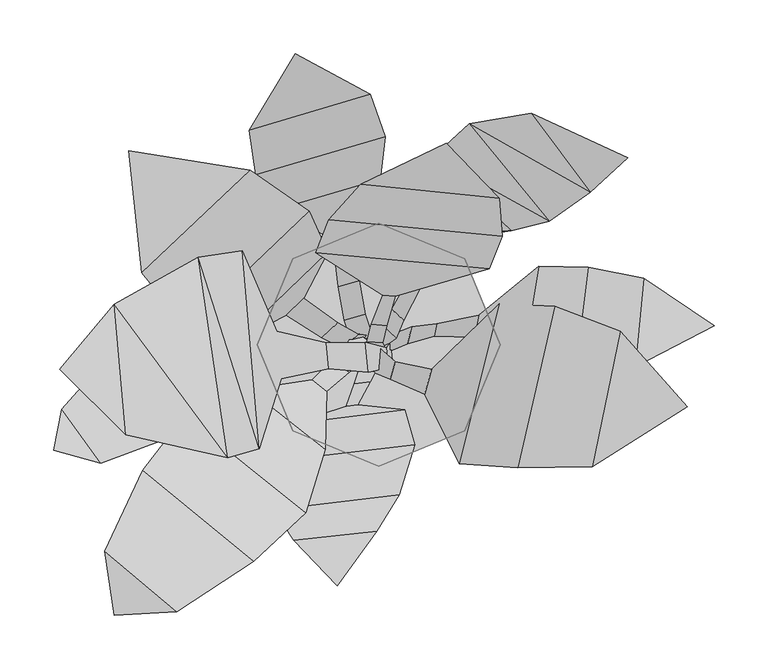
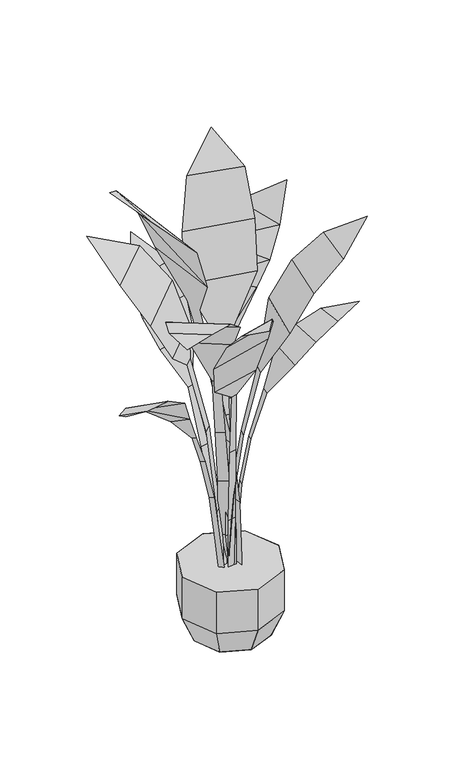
"""IFC4 building model written with IfcOpenShell, lengths in millimetres: geographic element geometry, Enscape AssetDefinition - Potted Plant 119 Strelitzia Nicolai : Enscape AssetDefinition - Potted Plant 119 Strelitzia Nicolai 3."""

from ifc_helpers import new_model, si_unit, origin, place, context, project, spatial, triangles, source, transform, mapped, element, save


def geographic_element_7c057f5b(model_context):
    return source(origin(), model_context, "Body", "Tessellation", [
        triangles([(-28.6275608, -3.2315073, 148.0808414), (-302.7117372, -98.2944635, 692.0313057), (-4.3611286, 8.3419219, 150.3474363), (-232.6906115, 180.4420928, 945.6564497), (-12.669571, -5.6641772, 152.3180828), (-77.6043838, 270.8740911, 848.4118767), (4.5874545, -2.600071, 152.2250107), (232.1368299, 173.8498717, 927.5369162), (2.6677009, -4.2339037, 150.5021144), (312.7002082, 17.698294, 692.4283745), (-13.4047959, -13.9766371, 147.5123441), (-38.7338912, -224.7471283, 887.8615036), (-3.4431015, -5.6045827, 158.1697423), (-246.4469303, -252.0039675, 930.9773312), (11.5640539, 3.577692, 148.4002351), (-297.0294351, -23.031686, 1200.0000092), (5.5938684, -14.6596316, 141.323187), (63.030455, 187.2687292, 1108.7899515), (-5.7572521, -0.0247753, 145.7425848), (287.4313654, -58.0640113, 958.0696455), (60.2596394, -60.2596394, 0.0), (85.2204523, 0.0, 0.0), (0.0, -85.2204523, 0.0), (80.0819124, -80.0819124, 167.183291), (0.0, -113.2534069, 64.7332581), (113.2534069, 0.0, 167.183291), (80.0819124, -80.0819124, 64.7332581), (0.0, 113.2534069, 167.183291), (0.0, -113.2534069, 167.183291), (80.0819124, 80.0819124, 167.183291), (113.2534069, 0.0, 64.7332581), (80.0819124, 80.0819124, 64.7332581), (0.0, 113.2534069, 64.7332581), (60.2596394, 60.2596394, 0.0), (0.0, 85.2204523, 0.0), (-80.0819124, 80.0819124, 167.183291), (-113.2534069, 0.0, 167.183291), (-60.2596394, 60.2596394, 0.0), (-85.2204523, 0.0, 0.0), (-80.0819124, 80.0819124, 64.7332581), (-60.2596394, -60.2596394, 0.0), (-80.0819124, -80.0819124, 64.7332581), (-113.2534069, 0.0, 64.7332581), (-80.0819124, -80.0819124, 167.183291), (198.8341025, -113.7750411, 915.9340633), (225.1475218, 12.5637725, 898.1587675), (163.9705147, 35.873344, 836.4012726), (129.7377023, -114.6502057, 854.9332083), (112.2744605, 38.1453143, 759.6317579), (75.3136669, -110.945272, 773.4838921), (49.5446412, -23.1883739, 647.670714), (15.6419402, -15.810681, 495.7711922), (43.0320754, -46.4510755, 648.0383514), (-0.5082292, -1.8708724, 348.4081304), (-7.2558253, -24.9059085, 347.3099779), (10.8161083, -32.4643929, 495.3546478), (-13.7375881, -19.6528679, 208.9632081), (-3.8763355, 13.7349084, 211.9315407), (-16.4769376, 149.1327848, 1039.1959436), (112.5081399, 136.2716967, 1026.282633), (115.0077693, 100.7860629, 916.9445395), (-46.6144558, 116.4112538, 931.5953894), (-58.7282558, 85.6322549, 822.2545343), (103.1383721, 70.6284515, 809.8165581), (3.9540095, 46.1417148, 676.5374113), (15.5140467, 45.1239172, 675.8732077), (-6.833305, 18.8004604, 519.0814336), (7.4285823, 17.6105746, 518.6327691), (-10.9848468, 2.7279647, 383.2194866), (3.8060268, 1.5380796, 383.1257787), (-15.5106982, -6.9317359, 241.0961486), (-8.4356656, -13.5668397, 140.8832611), (8.3974985, -8.8146623, 241.4912189), (-235.5511564, -84.3251945, 1145.2793667), (-246.4616641, 37.5245877, 1150.4901678), (-140.5745772, -105.4712693, 1046.7397419), (-111.0082314, -96.9699804, 945.276749), (-167.9513218, 81.2095234, 1038.9255386), (-90.5625499, -31.6950199, 842.0928583), (-126.8999304, 87.1515935, 938.2071951), (-46.2796561, -22.614524, 652.3874319), (-48.5824225, 1.4744671, 651.6910355), (-94.7214621, 12.5215876, 840.5741283), (-9.5873838, -25.7636686, 475.6180982), (-12.3066446, 2.2900443, 474.9967335), (9.5371643, -21.5277557, 323.2457854), (14.1701516, -22.4544888, 147.6784132), (7.6830322, -2.8197007, 323.1486983), (-188.159972, -248.8327585, 946.2657875), (-254.9716825, -192.5023487, 939.4712894), (-219.6869176, -117.0460442, 908.9320198), (-116.1460992, -202.0100169, 918.7109287), (-67.9841861, -156.8057631, 867.7132421), (-49.5138382, -97.5036597, 781.6330313), (-120.7342185, -41.7953186, 777.5477428), (-180.4093005, -66.2204447, 858.2008141), (-48.2375762, -43.3883037, 658.0435547), (-27.3211635, -25.6880033, 511.1539742), (-61.7213825, -32.9431609, 657.4885014), (-43.1773836, -13.4315793, 510.6076049), (-12.0769711, -15.2723191, 379.5641501), (7.1741329, -9.5880548, 235.3656844), (-21.879969, 12.8195618, 234.7944983), (-30.7528831, -0.8128988, 378.7813854), (-1.8882822, -173.9021032, 874.6436331), (-79.0949178, -182.4676596, 863.8328831), (19.2544525, -140.1058467, 840.9618954), (-97.5505318, -153.7155447, 825.3668444), (33.4694687, -93.1505642, 763.1934591), (24.5403012, -60.562973, 670.190197), (-101.9163536, -109.2357924, 745.6652412), (-19.3856944, -56.0511799, 621.0881796), (-79.7913051, -73.8787073, 659.2247326), (-30.0585077, -57.4479696, 620.118544), (-7.7540098, -34.6399369, 468.5169691), (-22.8408501, -36.656111, 467.4623096), (1.1343086, -17.3213071, 286.6023826), (-17.291844, -19.841694, 285.958254), (0.4874714, -12.0602309, 147.6020643), (247.0622997, 61.9175733, 671.7778908), (239.2708058, -20.7657497, 691.5606222), (195.1104562, 71.8491391, 643.5453117), (182.2888733, -31.2437052, 666.6794374), (149.2251847, 72.8783141, 608.3436087), (131.4626061, -33.8993525, 628.8428661), (93.2864934, 27.1905959, 546.2854053), (89.1992338, 6.9926702, 549.1218601), (54.172947, 19.3408298, 447.002621), (30.7502056, 16.6918795, 347.2463917), (51.6230935, 7.5926353, 448.2079253), (27.2629117, 0.6769693, 348.8393904), (16.2606535, 10.9520375, 235.0362169), (6.1824505, 11.2399662, 150.2014605), (12.6180105, -5.2704501, 235.7238929), (142.0490421, 215.4704417, 883.1782866), (84.5106755, 205.8080046, 810.5973244), (197.1513927, 141.7135702, 847.6130156), (158.7958305, 115.0660143, 790.9706154), (50.7586341, 175.1127306, 745.5888651), (56.6678846, 105.6647894, 650.629109), (123.4032688, 106.1201123, 740.1744427), (28.3476679, 61.8941372, 525.0884434), (38.766034, 52.6710219, 526.2120303), (65.9151082, 97.0470015, 650.8982059), (12.4117719, 32.7161648, 401.6269386), (2.4634718, 18.8587156, 260.0807456), (23.5238457, 22.7310321, 402.409013), (-7.1486887, 8.1256396, 152.4319021), (16.4012711, 6.1596837, 260.0606524), (-120.5768698, 199.8010129, 778.9740366), (-7.6361595, 233.0602474, 775.7511955), (-114.3549113, 158.1242146, 712.9329369), (6.2433837, 193.6306229, 709.481258), (-92.3383409, 126.601284, 648.53258), (1.4510311, 154.1755639, 645.7811491), (-42.5727284, 97.3262177, 555.6364334), (-37.5855238, 54.0530824, 431.5749653), (-29.7524967, 101.0780055, 555.2232682), (-32.0606225, 22.6245683, 319.3540535), (-12.3253946, 28.4273528, 318.8183667), (-18.2326376, 59.7145782, 430.9474963), (-25.180442, 1.3144319, 206.3209456), (-5.5175337, 7.1808287, 206.2164825), (-220.6431092, 66.6657346, 887.5207541), (-119.5463367, 162.484686, 893.7822178), (-178.9796821, 14.9602844, 804.3352066), (-47.5411843, 86.0052336, 722.6944777), (-64.7540144, 124.2831116, 812.4086964), (-85.956354, 27.3466139, 667.6751616), (-69.7137725, 42.9738168, 668.9500837), (-134.0298731, 2.7500618, 715.8163364), (-52.8551586, 6.3210582, 503.1782982), (-38.1051278, 20.4008124, 503.9771956), (-33.0255187, -3.5562646, 302.9802346), (-19.2176224, 9.6242127, 303.7462671), (-21.9556321, -8.4765129, 149.1394705), (-258.936375, -110.3634125, 697.647242), (-196.5835676, -87.3364024, 686.4669651), (-254.0322049, -14.3388924, 644.8711756), (-295.3059029, -60.0493824, 668.4726419), (-148.7618227, -71.8384248, 655.9517492), (-209.6629473, -0.3348018, 616.744404), (-117.8073804, -38.8249603, 584.5377943), (-90.0965082, -16.4869819, 515.1414488), (-145.5985983, -9.1420979, 569.8366568), (-66.6389557, -12.9949985, 445.9707436), (-96.3947975, -10.4444763, 512.917711), (-74.1532454, -6.09808, 444.2076971), (-44.1175061, -11.0859569, 346.9899393), (-52.5009424, -3.5154192, 345.6011433), (-30.9350167, -10.9520375, 234.5085783), (-38.4821215, -4.1870312, 233.668913), (-18.7924247, -12.0843357, 149.5070897)], [[193, 1, 192], [191, 193, 192], [191, 192, 190], [189, 191, 190], [189, 190, 188], [186, 189, 188], [186, 188, 187], [184, 186, 187], [184, 187, 185], [183, 184, 185], [183, 185, 182], [181, 183, 182], [181, 182, 179], [178, 181, 179], [178, 179, 180], [177, 178, 180], [177, 180, 2], [176, 3, 175], [174, 176, 175], [174, 175, 173], [172, 174, 173], [172, 173, 170], [169, 172, 170], [170, 167, 171], [171, 169, 170], [171, 167, 168], [166, 171, 168], [166, 168, 165], [164, 166, 165], [164, 165, 4], [162, 5, 163], [162, 163, 160], [159, 162, 160], [159, 160, 161], [157, 159, 161], [157, 161, 158], [156, 157, 158], [156, 158, 155], [154, 156, 155], [154, 155, 153], [152, 154, 153], [152, 153, 151], [150, 152, 151], [150, 151, 6], [148, 7, 149], [146, 148, 149], [146, 149, 147], [145, 146, 147], [145, 147, 143], [142, 145, 143], [142, 143, 144], [140, 142, 144], [140, 144, 141], [139, 140, 141], [139, 141, 138], [136, 139, 138], [136, 138, 137], [135, 136, 137], [135, 137, 8], [133, 9, 134], [132, 133, 134], [132, 134, 131], [129, 132, 131], [129, 131, 130], [128, 129, 130], [128, 130, 127], [126, 128, 127], [126, 127, 125], [124, 126, 125], [124, 125, 123], [122, 124, 123], [122, 123, 121], [120, 122, 121], [120, 121, 10], [119, 11, 118], [117, 119, 118], [117, 118, 116], [115, 117, 116], [115, 116, 114], [112, 115, 114], [114, 113, 110], [110, 112, 114], [110, 113, 111], [109, 110, 111], [109, 111, 108], [107, 109, 108], [108, 106, 105], [105, 107, 108], [105, 106, 12], [102, 13, 103], [102, 103, 104], [101, 102, 104], [101, 104, 100], [98, 101, 100], [98, 100, 99], [97, 98, 99], [97, 99, 95], [94, 97, 95], [94, 95, 96], [93, 94, 96], [93, 96, 91], [92, 93, 91], [92, 91, 90], [89, 92, 90], [89, 90, 14], [87, 15, 88], [86, 87, 88], [86, 88, 85], [84, 86, 85], [84, 85, 82], [81, 84, 82], [81, 82, 83], [79, 81, 83], [79, 83, 80], [77, 79, 80], [77, 80, 78], [76, 77, 78], [76, 78, 75], [74, 76, 75], [74, 75, 16], [72, 17, 73], [71, 72, 73], [71, 73, 70], [69, 71, 70], [69, 70, 68], [67, 69, 68], [67, 68, 66], [65, 67, 66], [65, 66, 64], [63, 65, 64], [63, 64, 61], [62, 63, 61], [62, 61, 60], [59, 62, 60], [59, 60, 18], [58, 19, 57], [58, 57, 55], [54, 58, 55], [54, 55, 56], [52, 54, 56], [52, 56, 53], [51, 52, 53], [51, 53, 50], [49, 51, 50], [49, 50, 48], [47, 49, 48], [47, 48, 45], [46, 47, 45], [46, 45, 20], [44, 37, 43], [41, 42, 43], [42, 44, 43], [39, 41, 43], [39, 43, 40], [43, 37, 40], [38, 39, 40], [37, 36, 40], [38, 40, 33], [40, 36, 33], [39, 38, 35], [35, 38, 33], [39, 35, 22], [35, 34, 22], [35, 33, 32], [34, 35, 32], [36, 28, 33], [28, 36, 37], [33, 28, 32], [28, 30, 32], [34, 32, 31], [32, 30, 31], [22, 34, 31], [30, 26, 31], [26, 30, 28], [29, 44, 42], [26, 28, 29], [28, 37, 29], [37, 44, 29], [24, 26, 29], [26, 24, 27], [22, 31, 27], [31, 26, 27], [24, 29, 25], [27, 24, 25], [25, 29, 42], [23, 25, 42], [23, 39, 22], [23, 41, 39], [41, 23, 42], [21, 27, 25], [21, 22, 27], [23, 21, 25], [21, 23, 22]], closed=False),
    ])


if __name__ == "__main__":
    model = new_model("IFC4")
    model_context = context("Model", 3, world=origin())
    ifc_project = project(units=[si_unit("LENGTHUNIT", "METRE", prefix="MILLI")], contexts=[model_context])
    site = spatial("IfcSite", under=ifc_project)
    building = spatial("IfcBuilding", under=site)
    placement = place(None, origin())
    geographic_element_shape = geographic_element_7c057f5b(model_context)
    element("IfcGeographicElement", 1, ObjectType="Enscape AssetDefinition - Potted Plant 119 Strelitzia Nicolai : Enscape AssetDefinition - Potted Plant 119 Strelitzia Nicolai 3", at=placement, inside=building, context=model_context, shape_type="MappedRepresentation", body=[
        mapped(geographic_element_shape, transform((0.0, 0.0, 0.0), x_axis=(1.0, 0.0, 0.0), y_axis=(0.0, 1.0, 0.0), z_axis=(0.0, 0.0, 1.0))),
    ])
    save(model, "model.ifc")
